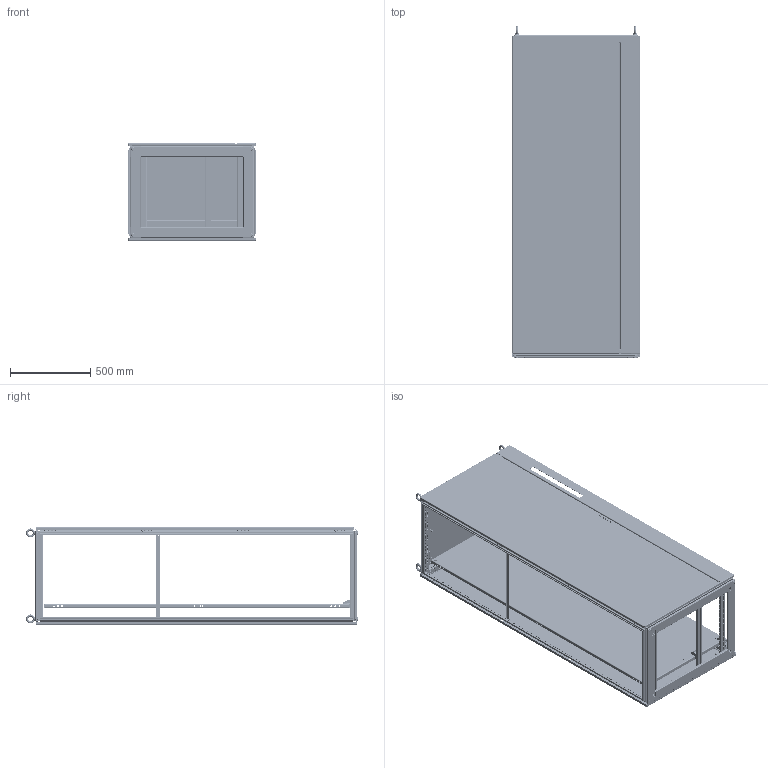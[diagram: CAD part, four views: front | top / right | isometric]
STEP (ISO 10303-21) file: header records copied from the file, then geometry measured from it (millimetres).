
FILE_DESCRIPTION((''),'2;1');
FILE_NAME('9951143_ASM','2015-03-11T',('us01724'),(''),'PRO/ENGINEER BY PARAMETRIC TECHNOLOGY CORPORATION, 2014310','PRO/ENGINEER BY PARAMETRIC TECHNOLOGY CORPORATION, 2014310','');
FILE_SCHEMA(('CONFIG_CONTROL_DESIGN'));
Products named in the file (56): D0242692_AF6; D0242692_AF7; D0277938_AF0; D0277938_AF1; D0242692; D0277938; D0242687; D0241135; D0275648_ASM; D0241538; D0241473; D0241152; D0208517; D0241463_TS_MPL_SLIDE_BLOCK_L; D0241464_TS_MPL_SLIDE_BLOCK_R; D0241469_TS_MPL_RETAINER_RIGHT; D0241468_TS_MPL_RETAINER_LEFT; D0271001; 211119; D0274958; D0043241; TS_GASKET_DOOR_FMDC_2000; D0242763_TS8_GROUND_STUD_M8; D0242763_TS8_CAP_M8; D0242763_ASM; D0207315; D0242679; D0041315; D0223916; D0043241_ASM; D0043308; TS_GASKET_DR_FMDC_LEFT_0720; D0233320; D0233331; D0214486; D0272085_ASM; D0241492; D0241496; D0042690; D0030693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
Assembly tree (136 placements, depth 4):
  9951143_ASM
    D0275648_ASM
      D0242692_AF6
      D0242692_AF7
      D0277938_AF0
      D0277938_AF1
      D0242692  x2
      D0277938  x2
      D0242687  x4
      D0241135  x8
    D0241538  x2
    D0241473  x2
    D0241152  x3
    D0208517  x2
    D0241463_TS_MPL_SLIDE_BLOCK_L
    D0241464_TS_MPL_SLIDE_BLOCK_R
    D0241469_TS_MPL_RETAINER_RIGHT
    D0241468_TS_MPL_RETAINER_LEFT
    D0271001
    211119
    D0274958  x8
    D0043241_ASM
      D0043241
      TS_GASKET_DOOR_FMDC_2000
      D0242763_ASM  x2
        D0242763_TS8_GROUND_STUD_M8
        D0242763_TS8_CAP_M8
      D0207315  x4
      D0242679  x3
      D0041315  x4
      D0223916
    D0043308_ASM
      D0043308
      TS_GASKET_DR_FMDC_LEFT_0720
      D0242763_ASM  x2
        D0242763_TS8_GROUND_STUD_M8
        D0242763_TS8_CAP_M8
      D0242679  x6
      D0207315  x4
      D0223916  x8
      D0272085_ASM
        D0233320  x2
        D0233331  x2
        D0214486  x4
      TS_LOCKBAR_ASSY_2000_DBL_ASM
        D0241492
        D0241496  x2
        D0042690  x2
        D0030693  x4
    D0275682_ASM
      D0275682
      TS_GASKET_ROOF_0806
      D0242763_ASM  x2
        D0242763_TS8_GROUND_STUD_M8
        D0242763_TS8_CAP_M8
    D0275871  x4
    D0055189_ASM
      TS_BASE_FRAME_MEM_600_NO_NOTCH  x2
      TS_BASE_FRAME_CORNER  x4
      TS_BASE_FRAME_MEM_800_NO_NOTCH  x2
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Bounding box: 797 x 2064.45 x 605.62 mm (x, y, z)
Volume: 16975486.2 mm3; surface area: 17530325.8 mm2
Topology: 150 solids, 158 shells, 21184 faces, 59601 edges, 38480 vertices
Faces by surface type: plane 12242, cylinder 7760, cone 376, torus 324, bspline 228, sphere 158, extrusion 96
Entity records: 297697 total; most frequent: CARTESIAN_POINT 56576, ORIENTED_EDGE 49322, DIRECTION 49196, EDGE_CURVE 24665, VECTOR 17056, LINE 17032, AXIS2_PLACEMENT_3D 16070, VERTEX_POINT 15996
